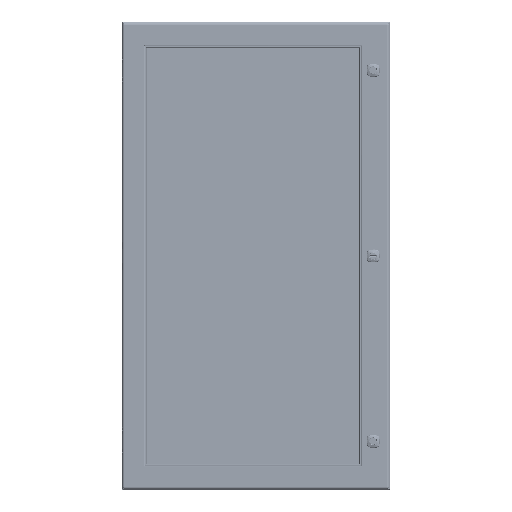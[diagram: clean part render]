
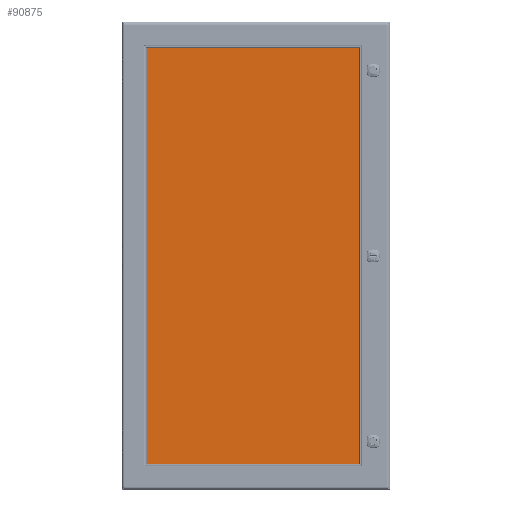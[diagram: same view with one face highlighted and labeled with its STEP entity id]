
A CAD part, top view. The second image highlights one B-rep face of the part: STEP entity #90875.
In plain terms, the highlighted planar face has unit normal (0, 0, 1).
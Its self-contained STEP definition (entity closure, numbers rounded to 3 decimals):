
#10139=LINE('',#154073,#16494);
#10145=LINE('',#154093,#16500);
#10148=LINE('',#154101,#16503);
#10150=LINE('',#154107,#16505);
#16494=VECTOR('',#110915,0.394);
#16500=VECTOR('',#110935,0.394);
#16503=VECTOR('',#110944,0.394);
#16505=VECTOR('',#110952,0.394);
#24095=FACE_OUTER_BOUND('',#29602,.T.);
#29602=EDGE_LOOP('',(#70237,#70238,#70239,#70240,#70241,#70242,#70243,#70244));
#34323=CIRCLE('',#98251,0.25);
#34328=CIRCLE('',#98259,0.25);
#34329=CIRCLE('',#98262,0.25);
#34330=CIRCLE('',#98265,0.25);
#39451=VERTEX_POINT('',#154060);
#39452=VERTEX_POINT('',#154061);
#39456=VERTEX_POINT('',#154071);
#39462=VERTEX_POINT('',#154087);
#39463=VERTEX_POINT('',#154091);
#39464=VERTEX_POINT('',#154095);
#39465=VERTEX_POINT('',#154099);
#39466=VERTEX_POINT('',#154103);
#50444=EDGE_CURVE('',#39451,#39452,#34323,.T.);
#50450=EDGE_CURVE('',#39456,#39451,#10139,.T.);
#50457=EDGE_CURVE('',#39462,#39456,#34328,.T.);
#50460=EDGE_CURVE('',#39463,#39462,#10145,.T.);
#50461=EDGE_CURVE('',#39464,#39463,#34329,.T.);
#50464=EDGE_CURVE('',#39465,#39464,#10148,.T.);
#50465=EDGE_CURVE('',#39466,#39465,#34330,.T.);
#50467=EDGE_CURVE('',#39452,#39466,#10150,.T.);
#70237=ORIENTED_EDGE('',*,*,#50444,.F.);
#70238=ORIENTED_EDGE('',*,*,#50450,.F.);
#70239=ORIENTED_EDGE('',*,*,#50457,.F.);
#70240=ORIENTED_EDGE('',*,*,#50460,.F.);
#70241=ORIENTED_EDGE('',*,*,#50461,.F.);
#70242=ORIENTED_EDGE('',*,*,#50464,.F.);
#70243=ORIENTED_EDGE('',*,*,#50465,.F.);
#70244=ORIENTED_EDGE('',*,*,#50467,.F.);
#87253=PLANE('',#98267);
#90875=ADVANCED_FACE('',(#24095),#87253,.T.);
#98251=AXIS2_PLACEMENT_3D('',#154062,#110905,#110906);
#98259=AXIS2_PLACEMENT_3D('',#154088,#110929,#110930);
#98262=AXIS2_PLACEMENT_3D('',#154096,#110938,#110939);
#98265=AXIS2_PLACEMENT_3D('',#154104,#110947,#110948);
#98267=AXIS2_PLACEMENT_3D('',#154108,#110953,#110954);
#110905=DIRECTION('center_axis',(0.,0.,-1.));
#110906=DIRECTION('ref_axis',(-0.707,-0.707,0.));
#110915=DIRECTION('',(-1.,0.,0.));
#110929=DIRECTION('center_axis',(0.,0.,-1.));
#110930=DIRECTION('ref_axis',(0.707,-0.707,0.));
#110935=DIRECTION('',(0.,-1.,0.));
#110938=DIRECTION('center_axis',(0.,0.,-1.));
#110939=DIRECTION('ref_axis',(0.707,0.707,0.));
#110944=DIRECTION('',(1.,0.,0.));
#110947=DIRECTION('center_axis',(0.,0.,-1.));
#110948=DIRECTION('ref_axis',(-0.707,0.707,0.));
#110952=DIRECTION('',(0.,1.,0.));
#110953=DIRECTION('center_axis',(0.,0.,1.));
#110954=DIRECTION('ref_axis',(1.,0.,0.));
#154060=CARTESIAN_POINT('',(-9.813,-19.188,0.25));
#154061=CARTESIAN_POINT('',(-10.063,-18.938,0.25));
#154062=CARTESIAN_POINT('Origin',(-9.813,-18.938,0.25));
#154071=CARTESIAN_POINT('',(9.813,-19.188,0.25));
#154073=CARTESIAN_POINT('',(-10.063,-19.188,0.25));
#154087=CARTESIAN_POINT('',(10.063,-18.938,0.25));
#154088=CARTESIAN_POINT('Origin',(9.813,-18.938,0.25));
#154091=CARTESIAN_POINT('',(10.063,18.938,0.25));
#154093=CARTESIAN_POINT('',(10.063,-19.188,0.25));
#154095=CARTESIAN_POINT('',(9.812,19.188,0.25));
#154096=CARTESIAN_POINT('Origin',(9.812,18.938,0.25));
#154099=CARTESIAN_POINT('',(-9.812,19.188,0.25));
#154101=CARTESIAN_POINT('',(10.063,19.188,0.25));
#154103=CARTESIAN_POINT('',(-10.063,18.938,0.25));
#154104=CARTESIAN_POINT('Origin',(-9.812,18.938,0.25));
#154107=CARTESIAN_POINT('',(-10.063,19.188,0.25));
#154108=CARTESIAN_POINT('Origin',(0.,0.,
0.25));
